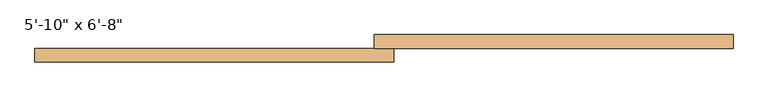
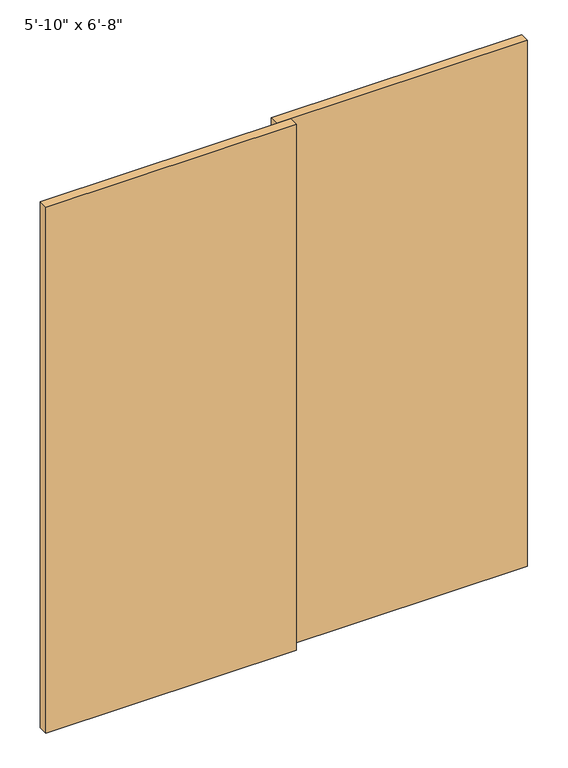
"""IFC4 building model written with IfcOpenShell, lengths in millimetres: door geometry."""

from ifc_helpers import new_model, si_unit, origin, origin_with_axes, place, context, project, spatial, polyline, outline, extrude, source, transform, mapped, element, save


def door_c3be8931(model_context):
    return source(origin(), model_context, "Body", "SweptSolid", [
        extrude(outline(polyline([(889.0, -18.975), (-25.4, -18.975), (-25.4, 16.025), (889.0, 16.025), (889.0, -18.975)])), origin_with_axes(), (0.0, 0.0, 1.0), 2032.0),
        extrude(outline(polyline([(25.4, -53.975), (-889.0, -53.975), (-889.0, -18.975), (25.4, -18.975), (25.4, -53.975)])), origin_with_axes(), (0.0, 0.0, 1.0), 2032.0),
    ])


if __name__ == "__main__":
    model = new_model("IFC4")
    model_context = context("Model", 3, world=origin())
    ifc_project = project(units=[si_unit("LENGTHUNIT", "METRE", prefix="MILLI")], contexts=[model_context])
    site = spatial("IfcSite", under=ifc_project)
    building = spatial("IfcBuilding", under=site)
    placement = place(None, origin())
    door_shape = door_c3be8931(model_context)
    element("IfcDoor", 1, ObjectType="Planitar - Double Sliding Door_Flush Panel : 5'-10\" x 6'-8\"", at=placement, inside=building, context=model_context, shape_type="MappedRepresentation", body=[
        mapped(door_shape, transform((0.0, 0.0, 0.0), x_axis=(1.0, 0.0, 0.0), y_axis=(0.0, 1.0, 0.0), z_axis=(0.0, 0.0, 1.0))),
    ])
    save(model, "model.ifc")
